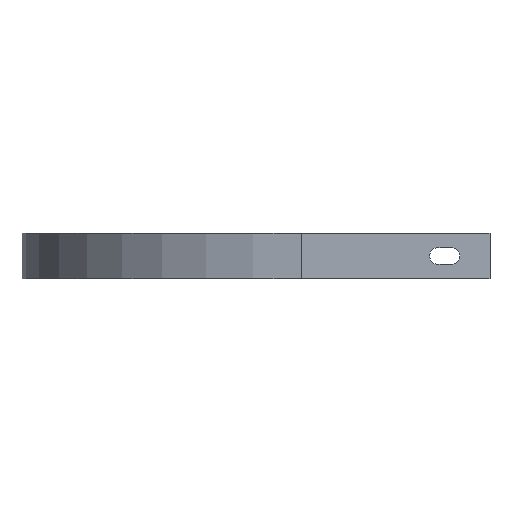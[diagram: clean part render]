
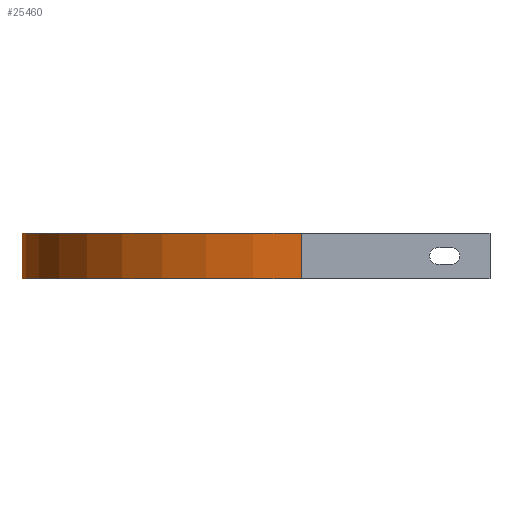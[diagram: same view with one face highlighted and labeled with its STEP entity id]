
A CAD part, left-side view. The second image highlights one B-rep face of the part: STEP entity #25460.
In plain terms, the highlighted cylindrical face has radius 185 mm (diameter 370 mm), a partial arc.
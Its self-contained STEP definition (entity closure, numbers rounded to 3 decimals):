
#23410=CARTESIAN_POINT('',(-185.,0.,-30.));
#23420=VERTEX_POINT('',#23410);
#23810=CARTESIAN_POINT('',(0.,185.,-30.));
#23820=VERTEX_POINT('',#23810);
#23850=CARTESIAN_POINT('',(0.,0.,-30.));
#23860=DIRECTION('',(0.,0.,1.));
#23870=DIRECTION('',(1.,0.,0.));
#23880=AXIS2_PLACEMENT_3D('',#23850,#23860,#23870);
#23890=CIRCLE('',#23880,185.);
#23900=EDGE_CURVE('',#23820,#23420,#23890,.T.);
#24000=CARTESIAN_POINT('',(0.,0.,0.));
#24010=DIRECTION('',(0.,0.,1.));
#24020=DIRECTION('',(1.,0.,0.));
#24030=AXIS2_PLACEMENT_3D('',#24000,#24010,#24020);
#24040=CIRCLE('',#24030,185.);
#24050=CARTESIAN_POINT('',(0.,185.,0.));
#24060=VERTEX_POINT('',#24050);
#24070=CARTESIAN_POINT('',(-185.,0.,0.));
#24080=VERTEX_POINT('',#24070);
#24090=EDGE_CURVE('',#24060,#24080,#24040,.T.);
#24830=CARTESIAN_POINT('',(0.,185.,0.));
#24840=DIRECTION('',(0.,0.,-1.));
#24850=VECTOR('',#24840,1.);
#24860=LINE('',#24830,#24850);
#24870=EDGE_CURVE('',#24060,#23820,#24860,.T.);
#25300=CARTESIAN_POINT('',(0.,0.,0.));
#25310=DIRECTION('',(0.,0.,1.));
#25320=DIRECTION('',(1.,0.,0.));
#25330=AXIS2_PLACEMENT_3D('',#25300,#25310,#25320);
#25340=CYLINDRICAL_SURFACE('',#25330,185.);
#25350=ORIENTED_EDGE('',*,*,#24090,.F.);
#25360=CARTESIAN_POINT('',(-185.,0.,0.));
#25370=DIRECTION('',(0.,0.,-1.));
#25380=VECTOR('',#25370,1.);
#25390=LINE('',#25360,#25380);
#25400=EDGE_CURVE('',#24080,#23420,#25390,.T.);
#25410=ORIENTED_EDGE('',*,*,#25400,.F.);
#25420=ORIENTED_EDGE('',*,*,#23900,.T.);
#25430=ORIENTED_EDGE('',*,*,#24870,.T.);
#25440=EDGE_LOOP('',(#25430,#25420,#25410,#25350));
#25450=FACE_OUTER_BOUND('',#25440,.T.);
#25460=ADVANCED_FACE('',(#25450),#25340,.T.);
